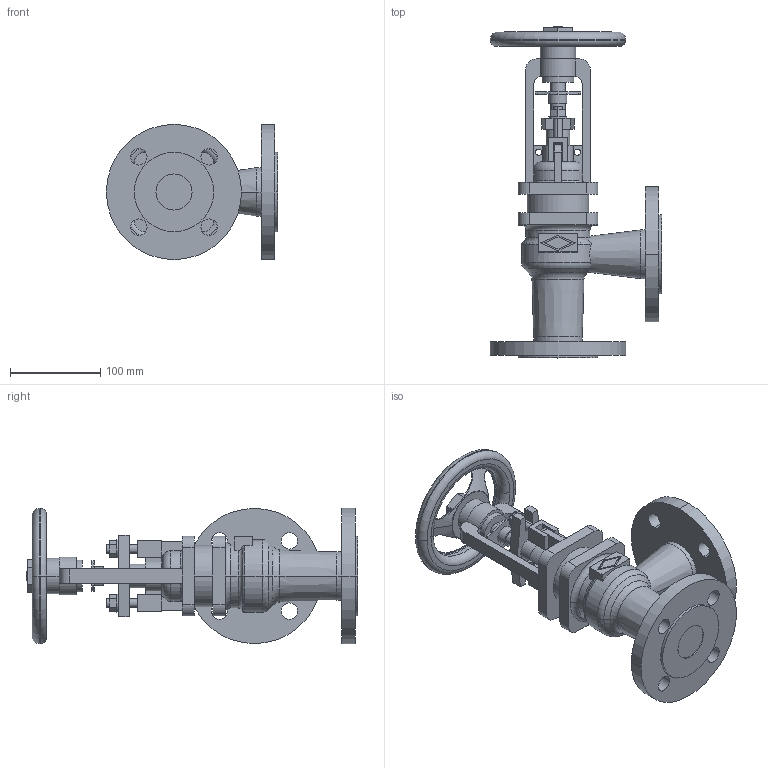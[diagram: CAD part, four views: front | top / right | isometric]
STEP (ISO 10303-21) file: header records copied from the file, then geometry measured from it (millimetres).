
FILE_DESCRIPTION(('OneSpaceDesigner STEP Export'),'2;1');
FILE_NAME('c000004449.stp','2010-05-17T 9:55:07',(''),(''),'OneSpace Designer STEP processor for AP214 (Solid Model)','OneSpace Modeling 15.50B 03-Nov-2007 (C) CoCreate Software GmbH','');
FILE_SCHEMA(('AUTOMOTIVE_DESIGN { 1 0 10303 214 1 1 1 1 }'));
Length unit declared in the file: millimetre
Products named in the file (1): 1
Bounding box: 190 x 368.4 x 150 mm (x, y, z)
Volume: 1754287.5 mm3; surface area: 240264.6 mm2
Topology: 1 solids, 1 shells, 299 faces, 794 edges, 520 vertices
Faces by surface type: plane 140, cylinder 117, torus 30, cone 12
Entity records: 11894 total; most frequent: CARTESIAN_POINT 2383, ORIENTED_EDGE 1580, DIRECTION 1331, EDGE_CURVE 790, VERTEX_POINT 516, AXIS2_PLACEMENT_3D 456, VECTOR 419, LINE 419
